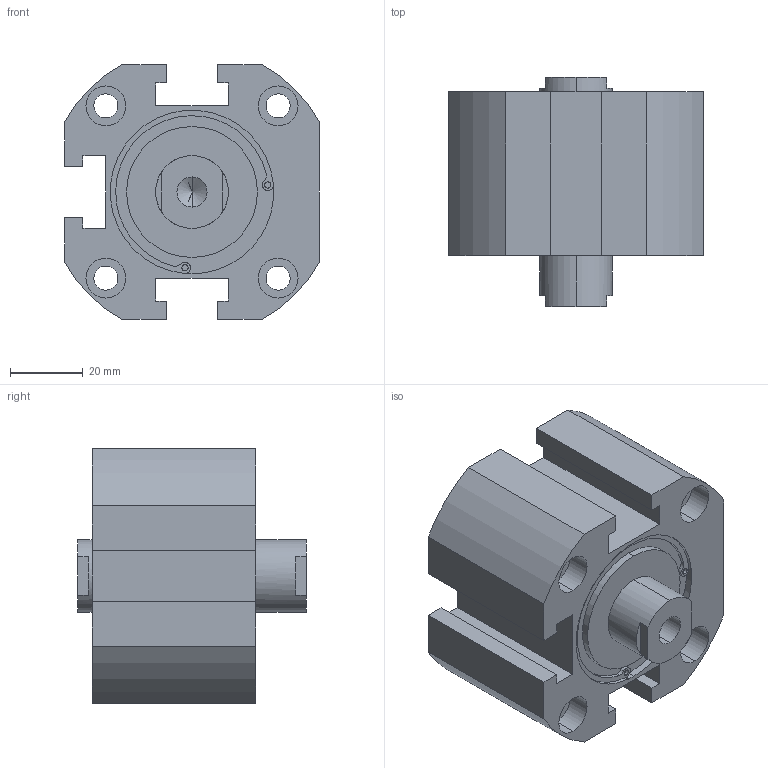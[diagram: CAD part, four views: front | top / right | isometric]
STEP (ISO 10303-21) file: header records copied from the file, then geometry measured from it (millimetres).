
FILE_DESCRIPTION (( 'STEP AP203' ), '1' );
FILE_NAME ('XG#7-50-10.STEP', '2016-05-24T01:59:39', ( '' ), ( '' ), 'SwSTEP 2.0', 'SolidWorks 2014', '' );
FILE_SCHEMA (( 'CONFIG_CONTROL_DESIGN' ));
Length unit declared in the file: millimetre
Products named in the file (1): XG#7-50-10
Bounding box: 70 x 63 x 70 mm (x, y, z)
Volume: 167347.6 mm3; surface area: 31217.9 mm2
Topology: 1 solids, 1 shells, 149 faces, 369 edges, 238 vertices
Faces by surface type: cylinder 77, plane 60, cone 12
Entity records: 4514 total; most frequent: DIRECTION 831, CARTESIAN_POINT 749, ORIENTED_EDGE 722, EDGE_CURVE 361, AXIS2_PLACEMENT_3D 320, VERTEX_POINT 238, VECTOR 191, LINE 191
